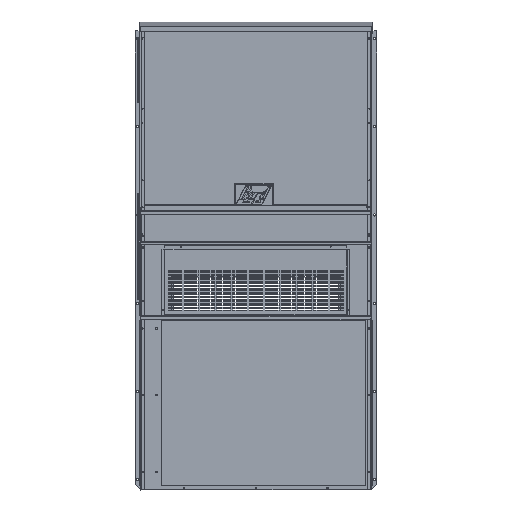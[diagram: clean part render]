
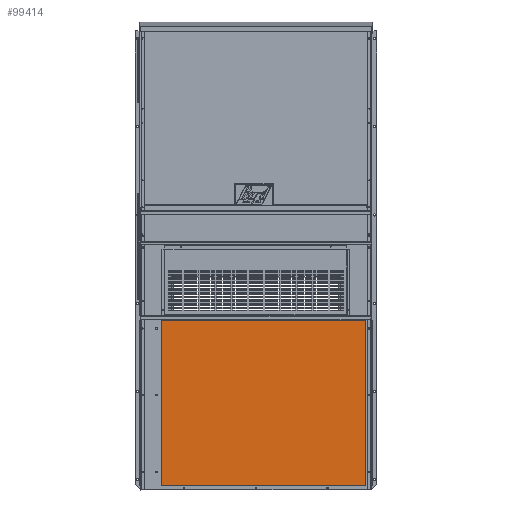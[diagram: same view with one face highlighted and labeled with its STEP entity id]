
A CAD part, top view. The second image highlights one B-rep face of the part: STEP entity #99414.
In plain terms, the highlighted planar face has unit normal (0, 0, 1).
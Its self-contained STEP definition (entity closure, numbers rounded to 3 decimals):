
#3109 = DIRECTION ( 'NONE',  ( 1., 0., 0. ) ) ;
#6047 = CARTESIAN_POINT ( 'NONE',  ( -17.209, 30.847, 0.14 ) ) ;
#10093 = ORIENTED_EDGE ( 'NONE', *, *, #90274, .F. ) ;
#11993 = FACE_OUTER_BOUND ( 'NONE', #50428, .T. ) ;
#12903 = CARTESIAN_POINT ( 'NONE',  ( 19.864, 30.847, 0.14 ) ) ;
#13115 = CARTESIAN_POINT ( 'NONE',  ( -21.33, 31.429, 0.14 ) ) ;
#15788 = DIRECTION ( 'NONE',  ( 0., -1., 0. ) ) ;
#22619 = CARTESIAN_POINT ( 'NONE',  ( -17.209, 0.797, 0.14 ) ) ;
#34934 = CARTESIAN_POINT ( 'NONE',  ( 19.864, 0.797, 0.14 ) ) ;
#35084 = ORIENTED_EDGE ( 'NONE', *, *, #102993, .F. ) ;
#40590 = VECTOR ( 'NONE', #118097, 39.37 ) ;
#42582 = PLANE ( 'NONE',  #109918 ) ;
#43248 = LINE ( 'NONE', #12903, #91849 ) ;
#43708 = LINE ( 'NONE', #108730, #40590 ) ;
#49866 = VERTEX_POINT ( 'NONE', #22619 ) ;
#50428 = EDGE_LOOP ( 'NONE', ( #35084, #92487, #10093, #109566 ) ) ;
#51034 = VERTEX_POINT ( 'NONE', #117822 ) ;
#51374 = CARTESIAN_POINT ( 'NONE',  ( 19.864, 30.847, 0.14 ) ) ;
#52370 = DIRECTION ( 'NONE',  ( 0., -1., 0. ) ) ;
#76208 = VERTEX_POINT ( 'NONE', #6047 ) ;
#79186 = EDGE_CURVE ( 'NONE', #49866, #76208, #99957, .T. ) ;
#85508 = EDGE_CURVE ( 'NONE', #106149, #51034, #122713, .T. ) ;
#87996 = CARTESIAN_POINT ( 'NONE',  ( -17.209, 30.847, 0.14 ) ) ;
#90274 = EDGE_CURVE ( 'NONE', #51034, #49866, #43708, .T. ) ;
#90829 = VECTOR ( 'NONE', #97729, 39.37 ) ;
#91849 = VECTOR ( 'NONE', #3109, 39.37 ) ;
#92487 = ORIENTED_EDGE ( 'NONE', *, *, #79186, .F. ) ;
#97729 = DIRECTION ( 'NONE',  ( 0., 1., 0. ) ) ;
#99414 = ADVANCED_FACE ( 'NONE', ( #11993 ), #42582, .T. ) ;
#99957 = LINE ( 'NONE', #87996, #90829 ) ;
#102993 = EDGE_CURVE ( 'NONE', #76208, #106149, #43248, .T. ) ;
#106149 = VERTEX_POINT ( 'NONE', #51374 ) ;
#108730 = CARTESIAN_POINT ( 'NONE',  ( -17.209, 0.797, 0.14 ) ) ;
#109566 = ORIENTED_EDGE ( 'NONE', *, *, #85508, .F. ) ;
#109918 = AXIS2_PLACEMENT_3D ( 'NONE', #13115, #110548, #52370 ) ;
#110548 = DIRECTION ( 'NONE',  ( 0., 0., 1. ) ) ;
#117822 = CARTESIAN_POINT ( 'NONE',  ( 19.864, 0.797, 0.14 ) ) ;
#118097 = DIRECTION ( 'NONE',  ( -1., 0., 0. ) ) ;
#119661 = VECTOR ( 'NONE', #15788, 39.37 ) ;
#122713 = LINE ( 'NONE', #34934, #119661 ) ;
